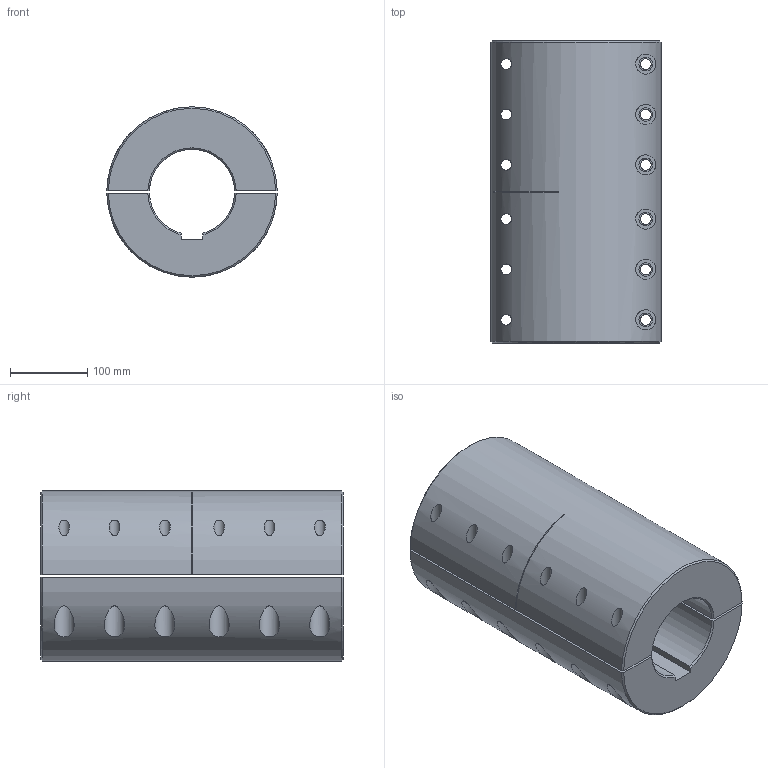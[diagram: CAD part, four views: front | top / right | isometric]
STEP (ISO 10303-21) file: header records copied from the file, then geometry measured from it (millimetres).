
FILE_DESCRIPTION (( 'STEP AP203' ), '1' );
FILE_NAME ('Y220-110N110N-SS.STEP', '2021-04-14T10:05:19', ( '' ), ( '' ), 'SwSTEP 2.0', 'SolidWorks 2020', '' );
FILE_SCHEMA (( 'CONFIG_CONTROL_DESIGN' ));
Length unit declared in the file: millimetre
Products named in the file (1): Y220-110N110N-SS
Bounding box: 219.98 x 390 x 220 mm (x, y, z)
Volume: 10445456.7 mm3; surface area: 636838.9 mm2
Topology: 2 solids, 2 shells, 82 faces, 198 edges, 132 vertices
Faces by surface type: cylinder 41, plane 31, cone 10
Full cylindrical faces by diameter (mm): 14 x12, 17.5 x12, 26 x12
Entity records: 4757 total; most frequent: CARTESIAN_POINT 2813, DIRECTION 360, ORIENTED_EDGE 324, EDGE_LOOP 178, EDGE_CURVE 162, AXIS2_PLACEMENT_3D 159, VERTEX_POINT 132, FACE_OUTER_BOUND 118
